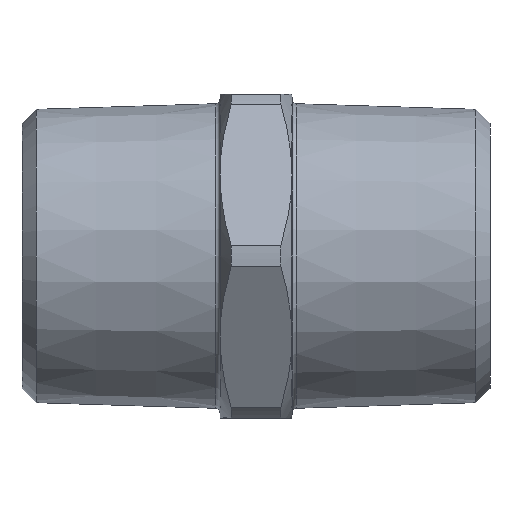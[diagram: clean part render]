
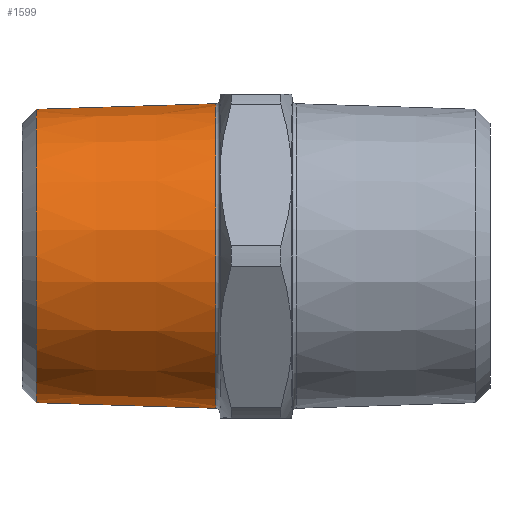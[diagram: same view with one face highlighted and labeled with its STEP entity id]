
A CAD part, front view. The second image highlights one B-rep face of the part: STEP entity #1599.
In plain terms, the highlighted conical face has half-angle 1.79 degrees and reference radius 16.297 mm.
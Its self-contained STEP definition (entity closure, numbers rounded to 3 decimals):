
#1 = ORIENTED_EDGE ( 'NONE', *, *, #911, .T. ) ;
#2 = ORIENTED_EDGE ( 'NONE', *, *, #880, .F. ) ;
#3 = ORIENTED_EDGE ( 'NONE', *, *, #882, .T. ) ;
#26 = CARTESIAN_POINT ( 'NONE',  ( -50.4, 0., 16.296 ) ) ;
#31 = CARTESIAN_POINT ( 'NONE',  ( -50.4, 0., -16.296 ) ) ;
#107 = DIRECTION ( 'NONE',  ( 1., 0., 0.031 ) ) ;
#108 = CARTESIAN_POINT ( 'NONE',  ( -50.4, 0., -16.296 ) ) ;
#113 = DIRECTION ( 'NONE',  ( 1., 0., -0.031 ) ) ;
#114 = CARTESIAN_POINT ( 'NONE',  ( -50.4, 0., 16.296 ) ) ;
#167 = DIRECTION ( 'NONE',  ( 0., 0., -1. ) ) ;
#168 = DIRECTION ( 'NONE',  ( -1., 0., 0. ) ) ;
#169 = CARTESIAN_POINT ( 'NONE',  ( -30.484, 0., 0. ) ) ;
#279 = AXIS2_PLACEMENT_3D ( 'NONE', #1104, #1102, #1100 ) ;
#503 = VERTEX_POINT ( 'NONE', #26 ) ;
#505 = VERTEX_POINT ( 'NONE', #31 ) ;
#523 = CIRCLE ( 'NONE', #840, 16.919 ) ;
#553 = LINE ( 'NONE', #114, #557 ) ;
#557 = VECTOR ( 'NONE', #107, 1000. ) ;
#558 = LINE ( 'NONE', #108, #560 ) ;
#560 = VECTOR ( 'NONE', #113, 1000. ) ;
#592 = CIRCLE ( 'NONE', #804, 16.296 ) ;
#687 = FACE_OUTER_BOUND ( 'NONE', #1257, .T. ) ;
#704 = CONICAL_SURFACE ( 'NONE', #279, 16.296, 0.031 ) ;
#804 = AXIS2_PLACEMENT_3D ( 'NONE', #1504, #1505, #1487 ) ;
#840 = AXIS2_PLACEMENT_3D ( 'NONE', #169, #168, #167 ) ;
#859 = EDGE_CURVE ( 'NONE', #1242, #1249, #523, .T. ) ;
#880 = EDGE_CURVE ( 'NONE', #503, #1249, #553, .T. ) ;
#882 = EDGE_CURVE ( 'NONE', #505, #1242, #558, .T. ) ;
#911 = EDGE_CURVE ( 'NONE', #503, #505, #592, .T. ) ;
#979 = CARTESIAN_POINT ( 'NONE',  ( -30.484, 0., 16.919 ) ) ;
#1100 = DIRECTION ( 'NONE',  ( 0., 0., -1. ) ) ;
#1102 = DIRECTION ( 'NONE',  ( 1., 0., 0. ) ) ;
#1104 = CARTESIAN_POINT ( 'NONE',  ( -50.4, 0., 0. ) ) ;
#1222 = CARTESIAN_POINT ( 'NONE',  ( -30.484, 0., -16.919 ) ) ;
#1227 = ORIENTED_EDGE ( 'NONE', *, *, #859, .T. ) ;
#1242 = VERTEX_POINT ( 'NONE', #1222 ) ;
#1249 = VERTEX_POINT ( 'NONE', #979 ) ;
#1257 = EDGE_LOOP ( 'NONE', ( #2, #1, #3, #1227 ) ) ;
#1487 = DIRECTION ( 'NONE',  ( 0., 0., -1. ) ) ;
#1504 = CARTESIAN_POINT ( 'NONE',  ( -50.4, 0., 0. ) ) ;
#1505 = DIRECTION ( 'NONE',  ( 1., 0., 0. ) ) ;
#1599 = ADVANCED_FACE ( 'NONE', ( #687 ), #704, .T. ) ;
